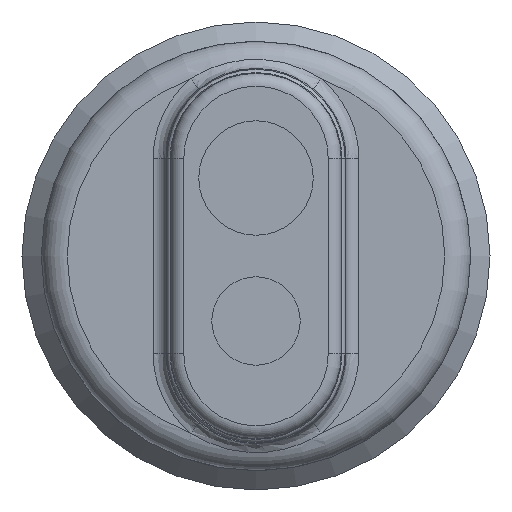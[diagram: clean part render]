
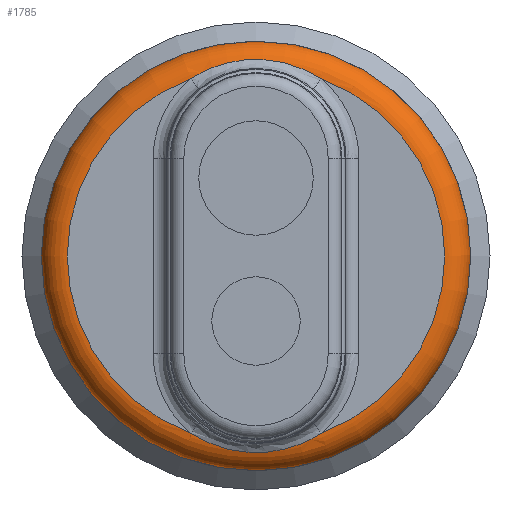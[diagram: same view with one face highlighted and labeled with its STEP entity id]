
A CAD part, left-side view. The second image highlights one B-rep face of the part: STEP entity #1785.
In plain terms, the highlighted toroidal (fillet/blend) face has major radius 7.26 mm and minor radius 1 mm.
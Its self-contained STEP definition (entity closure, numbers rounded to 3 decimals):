
#1309=CARTESIAN_POINT('',(-58.718,-2.506,-6.814));
#1310=VERTEX_POINT('',#1309);
#1427=CARTESIAN_POINT('',(-58.718,2.506,-6.814));
#1428=VERTEX_POINT('',#1427);
#1436=CARTESIAN_POINT('',(-58.718,2.506,-6.814));
#1437=CARTESIAN_POINT('',(-58.718,2.297,-6.95));
#1438=CARTESIAN_POINT('',(-58.709,1.852,-7.193));
#1439=CARTESIAN_POINT('',(-58.682,1.015,-7.482));
#1440=CARTESIAN_POINT('',(-58.669,0.257,-7.579));
#1441=CARTESIAN_POINT('',(-58.673,-0.441,-7.55));
#1442=CARTESIAN_POINT('',(-58.679,-0.82,-7.494));
#1443=CARTESIAN_POINT('',(-58.692,-1.31,-7.38));
#1444=CARTESIAN_POINT('',(-58.708,-1.852,-7.193));
#1445=CARTESIAN_POINT('',(-58.718,-2.297,-6.95));
#1446=CARTESIAN_POINT('',(-58.718,-2.506,-6.814));
#1447=B_SPLINE_CURVE_WITH_KNOTS('',3,(#1436,#1437,#1438,#1439,#1440,#1441,#1442,#1443,#1444,#1445,#1446),.UNSPECIFIED.,.F.,.U.,(4,1,1,1,1,1,1,1,4),(0.,0.077,0.154,0.27,0.309,0.367,0.386,0.463,0.541),.UNSPECIFIED.);
#1448=EDGE_CURVE('',#1428,#1310,#1447,.T.);
#1516=CARTESIAN_POINT('',(-58.718,2.506,6.814));
#1517=VERTEX_POINT('',#1516);
#1626=CARTESIAN_POINT('',(-58.718,-2.506,6.814));
#1627=VERTEX_POINT('',#1626);
#1635=CARTESIAN_POINT('',(-58.718,-2.506,6.814));
#1636=CARTESIAN_POINT('',(-58.718,-2.297,6.95));
#1637=CARTESIAN_POINT('',(-58.709,-1.852,7.193));
#1638=CARTESIAN_POINT('',(-58.682,-1.015,7.482));
#1639=CARTESIAN_POINT('',(-58.669,-0.257,7.579));
#1640=CARTESIAN_POINT('',(-58.673,0.442,7.55));
#1641=CARTESIAN_POINT('',(-58.684,1.07,7.457));
#1642=CARTESIAN_POINT('',(-58.707,1.794,7.224));
#1643=CARTESIAN_POINT('',(-58.718,2.297,6.95));
#1644=CARTESIAN_POINT('',(-58.718,2.506,6.814));
#1645=B_SPLINE_CURVE_WITH_KNOTS('',3,(#1635,#1636,#1637,#1638,#1639,#1640,#1641,#1642,#1643,#1644),.UNSPECIFIED.,.F.,.U.,(4,1,1,1,1,1,1,4),(0.,0.077,0.154,0.27,0.309,0.367,0.463,0.541),.UNSPECIFIED.);
#1646=EDGE_CURVE('',#1627,#1517,#1645,.T.);
#1747=CARTESIAN_POINT('',(-58.718,0.,0.0));
#1748=DIRECTION('',(1.0,0.0,0.0));
#1749=DIRECTION('',(0.0,1.0,0.0));
#1750=AXIS2_PLACEMENT_3D('',#1747,#1748,#1749);
#1751=CIRCLE('',#1750,7.26);
#1752=EDGE_CURVE('',#1627,#1310,#1751,.T.);
#1757=CARTESIAN_POINT('',(-57.718,0.,0.0));
#1758=DIRECTION('',(1.0,0.,0.0));
#1759=DIRECTION('',(0.0,0.0,-1.0));
#1760=AXIS2_PLACEMENT_3D('',#1757,#1758,#1759);
#1761=TOROIDAL_SURFACE('',#1760,7.26,1.);
#1762=CARTESIAN_POINT('',(-57.718,8.26,0.0));
#1763=VERTEX_POINT('',#1762);
#1764=CARTESIAN_POINT('',(-57.718,0.,0.0));
#1765=DIRECTION('',(1.0,0.0,0.0));
#1766=DIRECTION('',(0.0,1.0,0.0));
#1767=AXIS2_PLACEMENT_3D('',#1764,#1765,#1766);
#1768=CIRCLE('',#1767,8.26);
#1769=EDGE_CURVE('',#1763,#1763,#1768,.T.);
#1770=ORIENTED_EDGE('',*,*,#1769,.F.);
#1771=EDGE_LOOP('',(#1770));
#1772=FACE_OUTER_BOUND('',#1771,.T.);
#1773=ORIENTED_EDGE('',*,*,#1646,.F.);
#1774=ORIENTED_EDGE('',*,*,#1752,.T.);
#1775=ORIENTED_EDGE('',*,*,#1448,.F.);
#1776=CARTESIAN_POINT('',(-58.718,0.,0.0));
#1777=DIRECTION('',(1.0,0.0,0.0));
#1778=DIRECTION('',(0.0,1.0,0.0));
#1779=AXIS2_PLACEMENT_3D('',#1776,#1777,#1778);
#1780=CIRCLE('',#1779,7.26);
#1781=EDGE_CURVE('',#1428,#1517,#1780,.T.);
#1782=ORIENTED_EDGE('',*,*,#1781,.T.);
#1783=EDGE_LOOP('',(#1773,#1774,#1775,#1782));
#1784=FACE_BOUND('',#1783,.T.);
#1785=ADVANCED_FACE('',(#1772,#1784),#1761,.T.);
